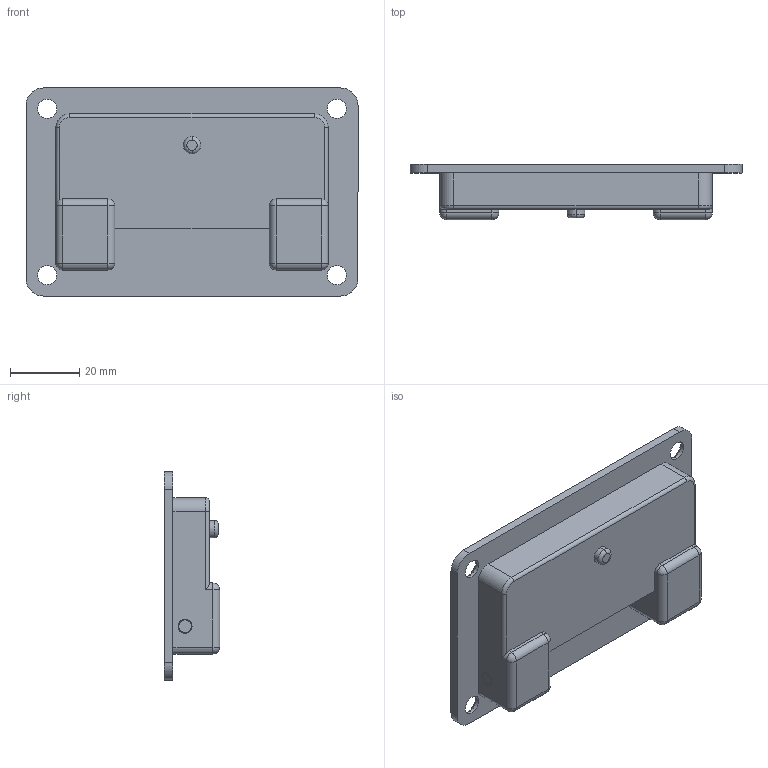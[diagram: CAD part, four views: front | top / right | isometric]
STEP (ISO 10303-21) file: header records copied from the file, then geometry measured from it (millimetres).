
FILE_DESCRIPTION (( 'STEP AP203' ), '1' );
FILE_NAME ('XG01-027-2.STEP', '2025-08-11T06:39:31', ( '微软用户' ), ( '微软中国' ), 'SwSTEP 2.0', 'SolidWorks 2024', '' );
FILE_SCHEMA (( 'CONFIG_CONTROL_DESIGN' ));
Length unit declared in the file: millimetre
Products named in the file (4): XG01-027-2 PARTA; XG01-027-2 销轴; XG01-027-2; XG01-027-2 PARTB
Assembly tree (4 placements, depth 2):
  XG01-027-2
    XG01-027-2 PARTA
    XG01-027-2 PARTB
    XG01-027-2 销轴  x2
Bounding box: 95.7 x 16 x 60 mm (x, y, z)
Volume: 29472.4 mm3; surface area: 22680.4 mm2
Topology: 4 solids, 4 shells, 581 faces, 1424 edges, 841 vertices
Faces by surface type: plane 284, cylinder 151, cone 102, torus 24, sphere 18, bspline 2
Entity records: 12753 total; most frequent: CARTESIAN_POINT 3025, DIRECTION 2023, ORIENTED_EDGE 1908, EDGE_CURVE 954, AXIS2_PLACEMENT_3D 772, VERTEX_POINT 570, LINE 479, VECTOR 479
